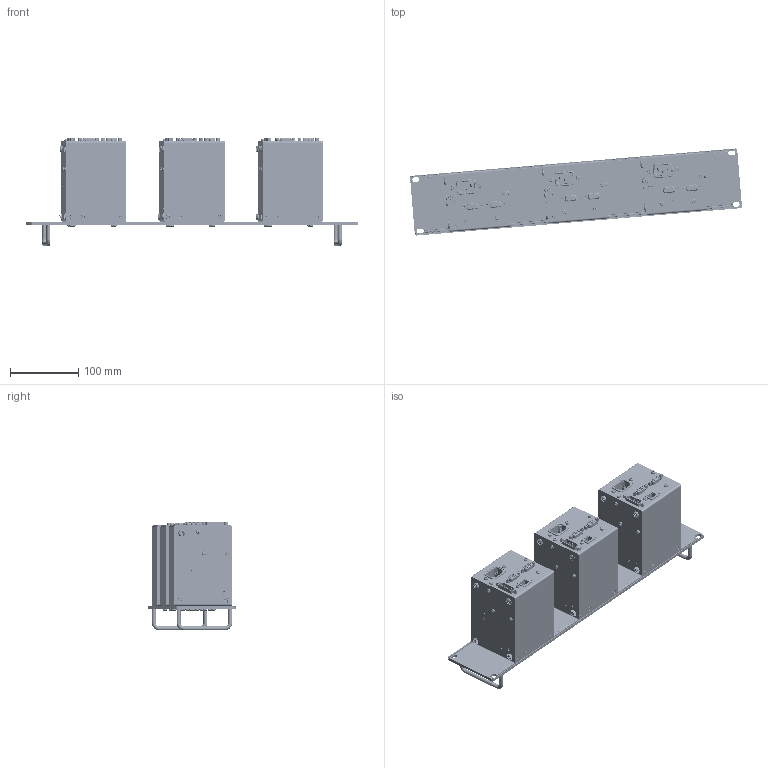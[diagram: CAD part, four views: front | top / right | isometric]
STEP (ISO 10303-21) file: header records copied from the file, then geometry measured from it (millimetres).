
FILE_DESCRIPTION(/* description */ (''),/* implementation_level */ '2;1');
FILE_NAME(/* name */ 'A:\Data\PSC-eth\step file\RA19-3PSC-ETH.stp',/* time_stamp */ '2021-01-04T16:19:30+01:00',/* author */ ('Delta'),/* organization */ (''),/* preprocessor_version */ 'ST-DEVELOPER v17.2',/* originating_system */ 'Autodesk Inventor 2019',/* authorisation */ '');
FILE_SCHEMA (('AUTOMOTIVE_DESIGN { 1 0 10303 214 3 1 1 }'));
Products named in the file (1): Assembly RA19-3PSC-ETH_Shrinkwrap_1
Bounding box: 487.88 x 128.06 x 159.75 mm (x, y, z)
Volume: 2865872.9 mm3; surface area: 253175.1 mm2
Topology: 1 solids, 1 shells, 4923 faces, 11421 edges, 6993 vertices
Faces by surface type: plane 2944, cylinder 1044, cone 564, torus 287, bspline 48, sphere 36
Full cylindrical faces by diameter (mm): 0.92 x90, 1 x48, 1.66 x90, 2 x3, 2.156 x18, 2.459 x12, 2.75 x6, 2.9 x12, 3.2 x18, 3.5 x12, 4 x8, 4.14 x12, 4.2 x4, 4.3 x12, 4.5 x10, 5.5 x15, 5.8 x3, 6 x96, 6.2 x3, 7 x3, 10 x12
Entity records: 150612 total; most frequent: CARTESIAN_POINT 35104, DIRECTION 24131, ORIENTED_EDGE 22606, EDGE_CURVE 11303, AXIS2_PLACEMENT_3D 9066, VERTEX_POINT 6999, LINE 5999, VECTOR 5999
